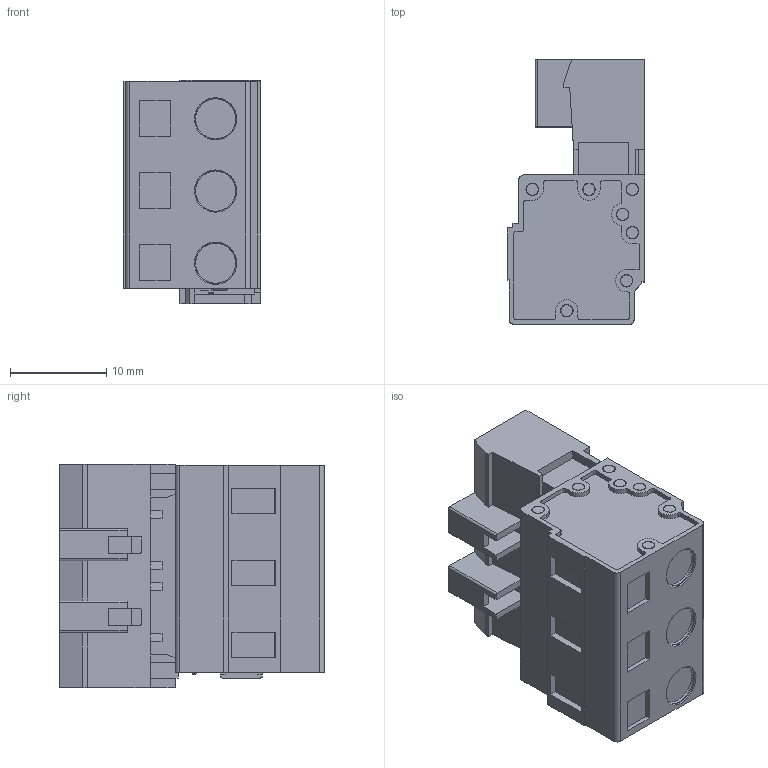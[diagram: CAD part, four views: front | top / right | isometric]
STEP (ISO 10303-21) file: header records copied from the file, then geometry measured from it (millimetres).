
FILE_DESCRIPTION((''),'2;1');
FILE_NAME('3PIN_SW0001','2019-06-06T',('zhenbing.lai'),(''),'CREO PARAMETRIC BY PTC INC, 2016260','CREO PARAMETRIC BY PTC INC, 2016260','');
FILE_SCHEMA(('CONFIG_CONTROL_DESIGN'));
Length unit declared in the file: millimetre
Products named in the file (1): 3PIN_SW0001
Bounding box: 14.3 x 27.5 x 23.2 mm (x, y, z)
Volume: 5521.2 mm3; surface area: 3411.7 mm2
Topology: 1 solids, 1 shells, 486 faces, 1269 edges, 817 vertices
Faces by surface type: plane 336, cylinder 100, cone 43, sphere 5, bspline 2
Entity records: 14863 total; most frequent: CARTESIAN_POINT 2694, ORIENTED_EDGE 2528, DIRECTION 2494, EDGE_CURVE 1264, VECTOR 970, LINE 970, VERTEX_POINT 817, AXIS2_PLACEMENT_3D 762
